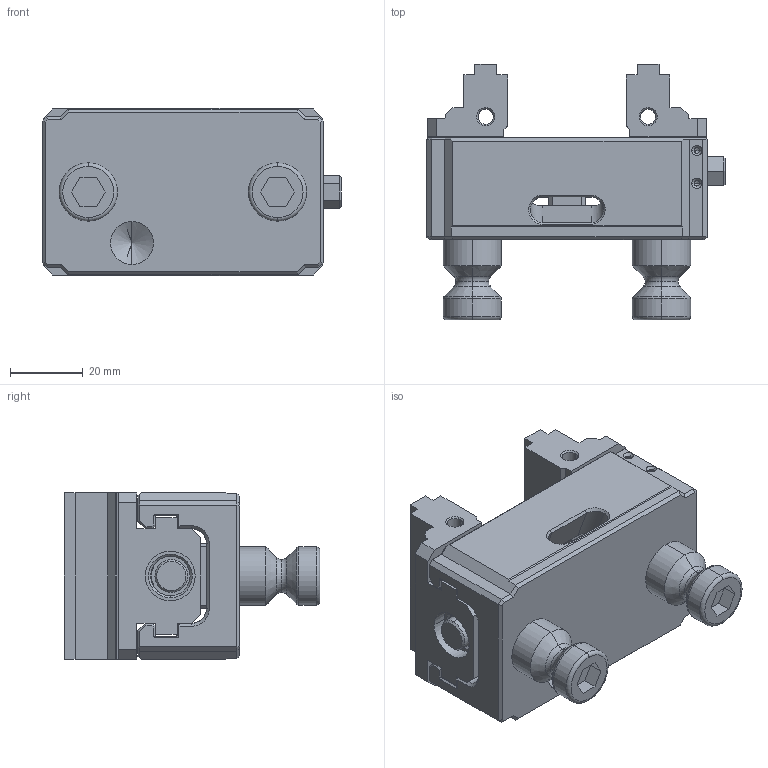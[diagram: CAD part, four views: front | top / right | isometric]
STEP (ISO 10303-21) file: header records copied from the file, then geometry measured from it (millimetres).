
FILE_DESCRIPTION (( 'STEP AP214' ), '1' );
FILE_NAME ('48040-46.STEP', '2023-09-06T05:56:03', ( '' ), ( '' ), 'SwSTEP 2.0', 'SolidWorks 2021', '' );
FILE_SCHEMA (( 'AUTOMOTIVE_DESIGN' ));
Length unit declared in the file: millimetre
Products named in the file (3): 48040-46; 48046-4620; Makro-Grip_48040-46
Assembly tree (3 placements, depth 2):
  48040-46
    Makro-Grip_48040-46
    48046-4620  x2
Bounding box: 82 x 70.25 x 46 mm (x, y, z)
Volume: 107627.5 mm3; surface area: 40207.1 mm2
Topology: 6 solids, 6 shells, 432 faces, 1048 edges, 635 vertices
Faces by surface type: plane 272, cylinder 72, cone 64, torus 16, bspline 8
Entity records: 15298 total; most frequent: CARTESIAN_POINT 2835, ORIENTED_EDGE 1772, DIRECTION 1770, EDGE_CURVE 886, LINE 658, VECTOR 658, AXIS2_PLACEMENT_3D 556, VERTEX_POINT 537
